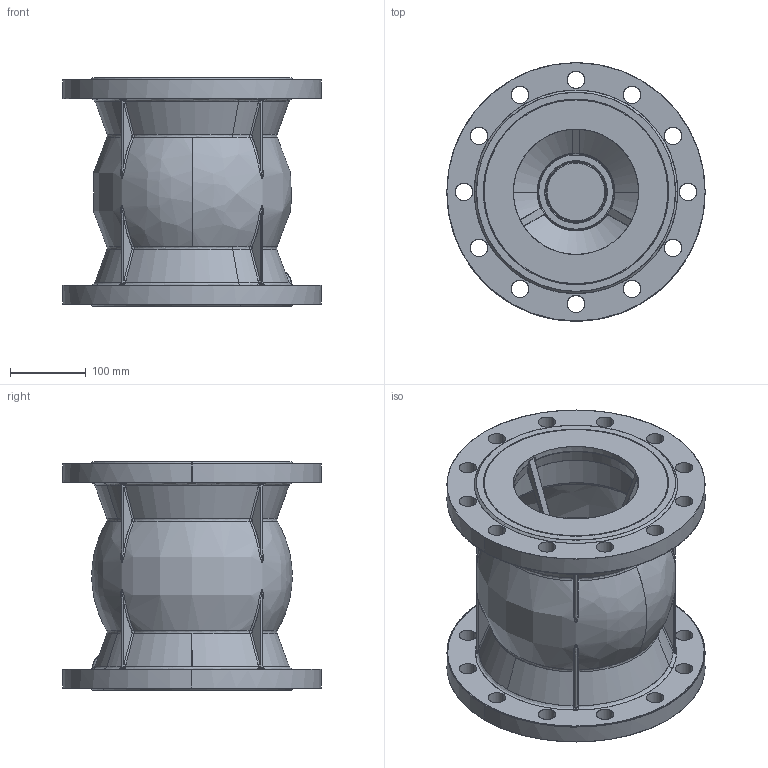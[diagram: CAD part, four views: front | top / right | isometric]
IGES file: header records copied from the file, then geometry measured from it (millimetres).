
Start section: SolidWorks IGES file using analytic representation for surfaces
Global section: file name: C:\Users\Administrator\Desktop\temp\0.IGS; native system: SolidWorks 2015; preprocessor: SolidWorks 2015; author: Administrator; date: 170405.212603; units: millimetre
Bounding box: 340 x 340 x 301 mm (x, y, z)
Surface area: 1179519.6 mm2 (no closed solid volume)
Topology: 0 solids, 0 shells, 624 faces, 8136 edges, 8119 vertices
Faces by surface type: bspline 428, revolution 196
